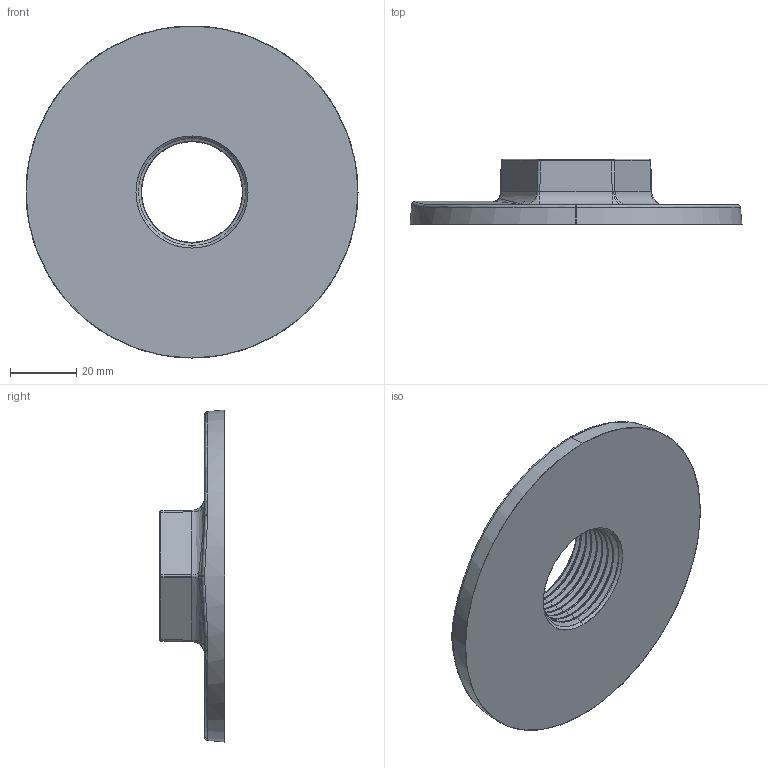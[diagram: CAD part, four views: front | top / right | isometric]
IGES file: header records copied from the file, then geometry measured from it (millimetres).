
Start section: SolidWorks IGES file using analytic representation for surfaces
Global section: file name: C:\Users\Joel Rosa\Desktop\Tubulação\12-99-XXX\12-99-007.IGS; native system: SolidWorks 2011; preprocessor: SolidWorks 2011; author: Joel Rosa; date: 130810.233307; units: millimetre
Bounding box: 100 x 19.7 x 100 mm (x, y, z)
Surface area: 20637.5 mm2 (no closed solid volume)
Topology: 0 solids, 0 shells, 237 faces, 1842 edges, 1842 vertices
Faces by surface type: bspline 174, revolution 63
